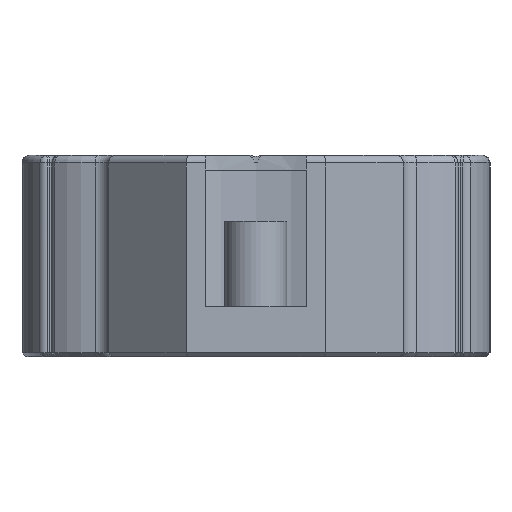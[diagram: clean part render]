
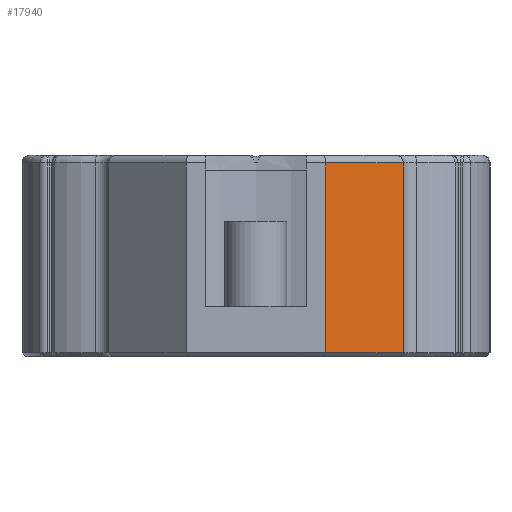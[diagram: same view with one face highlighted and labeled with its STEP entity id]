
A CAD part, front view. The second image highlights one B-rep face of the part: STEP entity #17940.
In plain terms, the highlighted planar face has unit normal (0.707, -0.707, 0).
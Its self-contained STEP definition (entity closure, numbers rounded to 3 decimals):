
#77 = LINE ( 'NONE', #19690, #19996 ) ;
#1407 = LINE ( 'NONE', #14167, #13671 ) ;
#2122 = VECTOR ( 'NONE', #3619, 1000. ) ;
#3619 = DIRECTION ( 'NONE',  ( 0.707, 0.707, 0. ) ) ;
#5031 = CARTESIAN_POINT ( 'NONE',  ( 19., -96., 25. ) ) ;
#5308 = CARTESIAN_POINT ( 'NONE',  ( 9., -106., 0. ) ) ;
#5445 = DIRECTION ( 'NONE',  ( -0.707, 0.707, 0. ) ) ;
#6622 = ORIENTED_EDGE ( 'NONE', *, *, #14609, .F. ) ;
#7606 = EDGE_CURVE ( 'NONE', #11802, #11569, #9009, .T. ) ;
#7717 = DIRECTION ( 'NONE',  ( -0.707, -0.707, 0. ) ) ;
#9009 = LINE ( 'NONE', #5308, #12316 ) ;
#9652 = ORIENTED_EDGE ( 'NONE', *, *, #10174, .T. ) ;
#10174 = EDGE_CURVE ( 'NONE', #11802, #14566, #15481, .T. ) ;
#10431 = ORIENTED_EDGE ( 'NONE', *, *, #19714, .T. ) ;
#10632 = DIRECTION ( 'NONE',  ( 0., 0., -1. ) ) ;
#10752 = AXIS2_PLACEMENT_3D ( 'NONE', #17729, #5445, #12383 ) ;
#11569 = VERTEX_POINT ( 'NONE', #14240 ) ;
#11802 = VERTEX_POINT ( 'NONE', #17111 ) ;
#12223 = PLANE ( 'NONE',  #10752 ) ;
#12316 = VECTOR ( 'NONE', #21321, 1000. ) ;
#12383 = DIRECTION ( 'NONE',  ( 0., 0., 1. ) ) ;
#13477 = ORIENTED_EDGE ( 'NONE', *, *, #7606, .F. ) ;
#13671 = VECTOR ( 'NONE', #10632, 1000. ) ;
#13764 = CARTESIAN_POINT ( 'NONE',  ( 19., -96., 0.5 ) ) ;
#14167 = CARTESIAN_POINT ( 'NONE',  ( 19., -96., 0. ) ) ;
#14240 = CARTESIAN_POINT ( 'NONE',  ( 9., -106., 25. ) ) ;
#14566 = VERTEX_POINT ( 'NONE', #15929 ) ;
#14609 = EDGE_CURVE ( 'NONE', #19988, #14566, #1407, .T. ) ;
#15481 = LINE ( 'NONE', #13764, #2122 ) ;
#15929 = CARTESIAN_POINT ( 'NONE',  ( 19., -96., 0.5 ) ) ;
#17111 = CARTESIAN_POINT ( 'NONE',  ( 9., -106., 0.5 ) ) ;
#17729 = CARTESIAN_POINT ( 'NONE',  ( 9., -106., 0. ) ) ;
#17940 = ADVANCED_FACE ( 'NONE', ( #20623 ), #12223, .F. ) ;
#19690 = CARTESIAN_POINT ( 'NONE',  ( 9., -106., 25. ) ) ;
#19714 = EDGE_CURVE ( 'NONE', #19988, #11569, #77, .T. ) ;
#19988 = VERTEX_POINT ( 'NONE', #5031 ) ;
#19996 = VECTOR ( 'NONE', #7717, 1000. ) ;
#20623 = FACE_OUTER_BOUND ( 'NONE', #22254, .T. ) ;
#21321 = DIRECTION ( 'NONE',  ( 0., 0., 1. ) ) ;
#22254 = EDGE_LOOP ( 'NONE', ( #13477, #9652, #6622, #10431 ) ) ;
